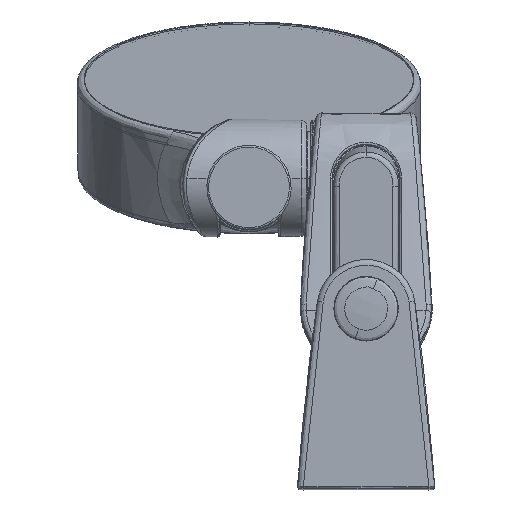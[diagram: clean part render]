
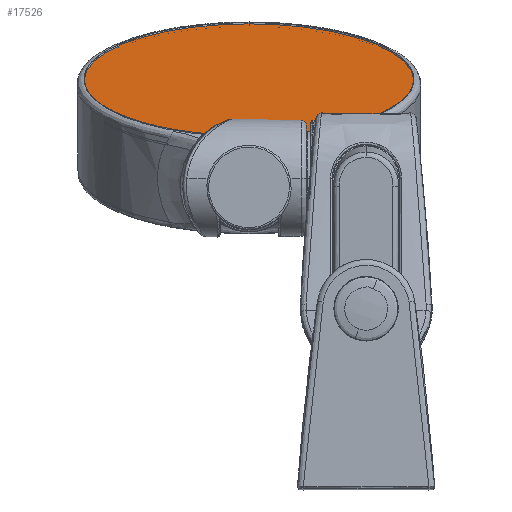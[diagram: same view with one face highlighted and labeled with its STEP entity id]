
A CAD part, front view. The second image highlights one B-rep face of the part: STEP entity #17526.
In plain terms, the highlighted planar face has unit normal (0, -0.342, 0.94).
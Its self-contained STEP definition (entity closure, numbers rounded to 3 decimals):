
#133 = DIRECTION ( 'NONE',  ( 0., -0.342, 0.94 ) ) ;
#2174 = EDGE_CURVE ( 'NONE', #21335, #26458, #20533, .T. ) ;
#4159 = DIRECTION ( 'NONE',  ( 0., -0.94, -0.342 ) ) ;
#6046 = PLANE ( 'NONE',  #20116 ) ;
#6417 = DIRECTION ( 'NONE',  ( 0., -0.94, -0.342 ) ) ;
#7891 = ORIENTED_EDGE ( 'NONE', *, *, #2174, .T. ) ;
#8587 = CIRCLE ( 'NONE', #18748, 45.45 ) ;
#10000 = AXIS2_PLACEMENT_3D ( 'NONE', #25016, #19054, #6417 ) ;
#10141 = DIRECTION ( 'NONE',  ( 0., 0.342, -0.94 ) ) ;
#10241 = DIRECTION ( 'NONE',  ( 0., -0.94, -0.342 ) ) ;
#11541 = FACE_OUTER_BOUND ( 'NONE', #24791, .T. ) ;
#16531 = ORIENTED_EDGE ( 'NONE', *, *, #19088, .T. ) ;
#17526 = ADVANCED_FACE ( 'NONE', ( #11541 ), #6046, .F. ) ;
#18416 = CARTESIAN_POINT ( 'NONE',  ( -32.298, 204.535, 63.048 ) ) ;
#18748 = AXIS2_PLACEMENT_3D ( 'NONE', #22773, #133, #4159 ) ;
#18826 = CARTESIAN_POINT ( 'NONE',  ( -32.298, 247.244, 78.592 ) ) ;
#19054 = DIRECTION ( 'NONE',  ( 0., -0.342, 0.94 ) ) ;
#19088 = EDGE_CURVE ( 'NONE', #26458, #21335, #8587, .T. ) ;
#20116 = AXIS2_PLACEMENT_3D ( 'NONE', #18416, #10141, #10241 ) ;
#20533 = CIRCLE ( 'NONE', #10000, 45.45 ) ;
#21335 = VERTEX_POINT ( 'NONE', #27006 ) ;
#22773 = CARTESIAN_POINT ( 'NONE',  ( -32.298, 204.535, 63.048 ) ) ;
#24791 = EDGE_LOOP ( 'NONE', ( #16531, #7891 ) ) ;
#25016 = CARTESIAN_POINT ( 'NONE',  ( -32.298, 204.535, 63.048 ) ) ;
#26458 = VERTEX_POINT ( 'NONE', #18826 ) ;
#27006 = CARTESIAN_POINT ( 'NONE',  ( -32.298, 161.826, 47.503 ) ) ;
